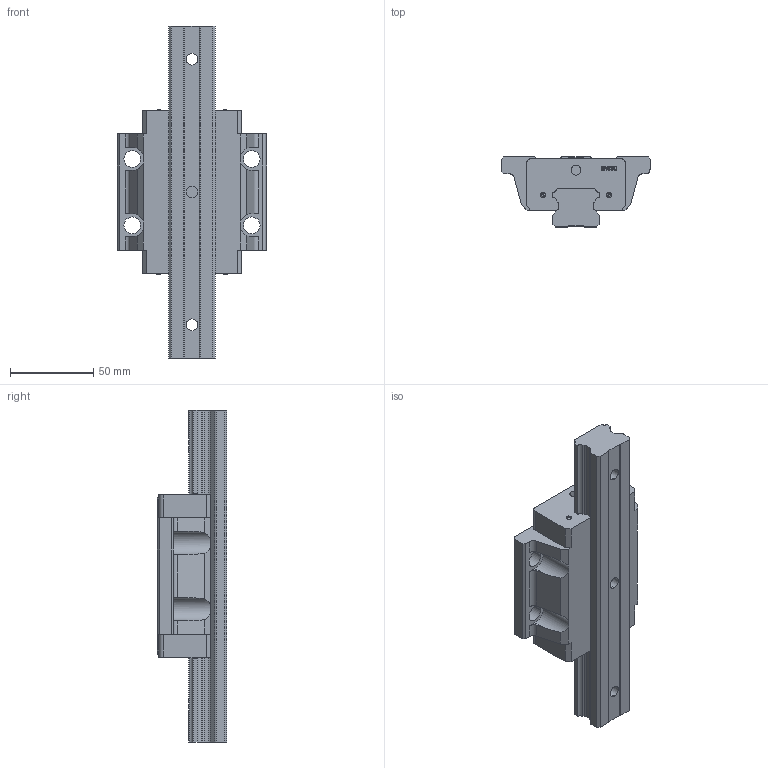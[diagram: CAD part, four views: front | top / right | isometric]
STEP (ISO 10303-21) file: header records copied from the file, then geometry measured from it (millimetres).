
FILE_DESCRIPTION(/* description */ (''),/* implementation_level */ '2;1');
FILE_NAME(/* name */ 'EGW30CA.stp',/* time_stamp */ '2021-05-19T19:27:58+08:00',/* author */ (''),/* organization */ (''),/* preprocessor_version */ 'ST-DEVELOPER v15',/* originating_system */ 'SIEMENS PLM Software NX 8.5',/* authorisation */ '');
FILE_SCHEMA (('CONFIG_CONTROL_DESIGN'));
Length unit declared in the file: millimetre
Products named in the file (1): _model5
Bounding box: 90 x 42 x 200 mm (x, y, z)
Volume: 291390.6 mm3; surface area: 53563.6 mm2
Topology: 2 solids, 2 shells, 251 faces, 724 edges, 494 vertices
Faces by surface type: plane 137, cylinder 78, extrusion 28, bspline 8
Entity records: 8958 total; most frequent: CARTESIAN_POINT 2256, ORIENTED_EDGE 1448, DIRECTION 1278, EDGE_CURVE 724, VERTEX_POINT 494, VECTOR 438, AXIS2_PLACEMENT_3D 420, LINE 410
